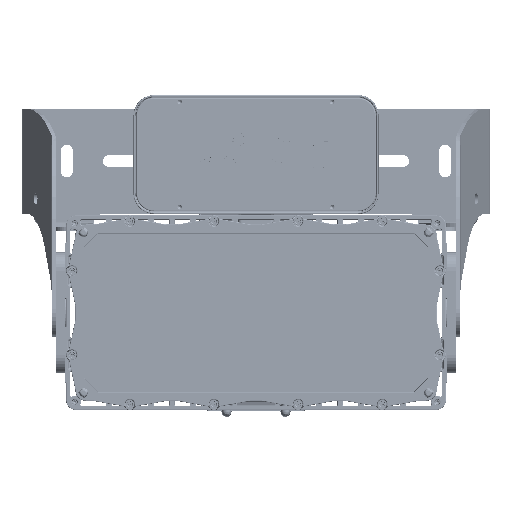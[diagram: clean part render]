
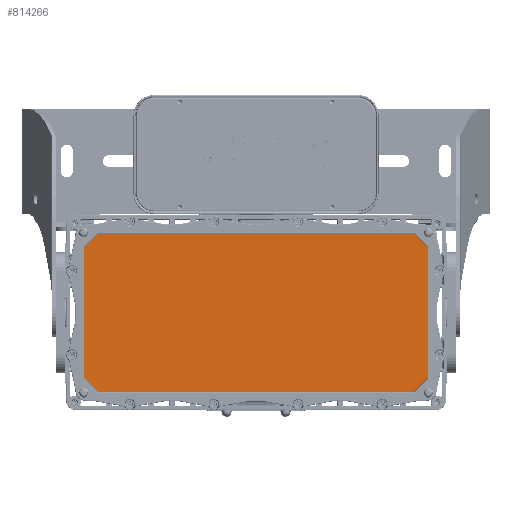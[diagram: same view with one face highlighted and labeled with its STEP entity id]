
A CAD part, front view. The second image highlights one B-rep face of the part: STEP entity #814266.
In plain terms, the highlighted planar face has unit normal (0, -1, 0) as drawn and (0, 1, 0) by its records, which use the part's own axes.
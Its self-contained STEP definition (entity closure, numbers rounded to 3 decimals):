
#813973=CARTESIAN_POINT('',(-7.554,0.232,-3.845));
#813974=DIRECTION('',(0.,1.,0.));
#813975=DIRECTION('',(0.,0.,-1.));
#813976=AXIS2_PLACEMENT_3D('',#813973,#813974,#813975);
#813978=DIRECTION('',(-1.,0.,0.));
#813979=VECTOR('',#813978,15.107);
#813980=CARTESIAN_POINT('',(7.554,0.232,-3.945));
#813981=LINE('',#813980,#813979);
#813982=CARTESIAN_POINT('',(7.554,0.232,-3.845));
#813983=DIRECTION('',(0.,1.,0.));
#813984=DIRECTION('',(0.707,0.,-0.707));
#813985=AXIS2_PLACEMENT_3D('',#813982,#813983,#813984);
#813987=DIRECTION('',(-0.707,0.,-0.707));
#813988=VECTOR('',#813987,0.964);
#813989=CARTESIAN_POINT('',(8.306,0.232,-3.234));
#813990=LINE('',#813989,#813988);
#813991=CARTESIAN_POINT('',(8.235,0.232,-3.164));
#813992=DIRECTION('',(0.,1.,0.));
#813993=DIRECTION('',(1.,0.,0.));
#813994=AXIS2_PLACEMENT_3D('',#813991,#813992,#813993);
#813996=DIRECTION('',(0.,0.,-1.));
#813997=VECTOR('',#813996,6.327);
#813998=CARTESIAN_POINT('',(8.335,0.232,3.164));
#813999=LINE('',#813998,#813997);
#814000=CARTESIAN_POINT('',(8.235,0.232,3.164));
#814001=DIRECTION('',(0.,1.,0.));
#814002=DIRECTION('',(0.707,0.,0.707));
#814003=AXIS2_PLACEMENT_3D('',#814000,#814001,#814002);
#814005=DIRECTION('',(0.707,0.,-0.707));
#814006=VECTOR('',#814005,0.964);
#814007=CARTESIAN_POINT('',(7.624,0.232,3.916));
#814008=LINE('',#814007,#814006);
#814009=CARTESIAN_POINT('',(7.554,0.232,3.845));
#814010=DIRECTION('',(0.,1.,0.));
#814011=DIRECTION('',(0.,0.,1.));
#814012=AXIS2_PLACEMENT_3D('',#814009,#814010,#814011);
#814014=DIRECTION('',(1.,0.,0.));
#814015=VECTOR('',#814014,15.107);
#814016=CARTESIAN_POINT('',(-7.554,0.232,3.945));
#814017=LINE('',#814016,#814015);
#814018=CARTESIAN_POINT('',(-7.554,0.232,3.845));
#814019=DIRECTION('',(0.,1.,0.));
#814020=DIRECTION('',(-0.707,0.,0.707));
#814021=AXIS2_PLACEMENT_3D('',#814018,#814019,#814020);
#814023=DIRECTION('',(0.707,0.,0.707));
#814024=VECTOR('',#814023,0.964);
#814025=CARTESIAN_POINT('',(-8.306,0.232,3.234));
#814026=LINE('',#814025,#814024);
#814027=CARTESIAN_POINT('',(-8.235,0.232,3.164));
#814028=DIRECTION('',(0.,1.,0.));
#814029=DIRECTION('',(-1.,0.,0.));
#814030=AXIS2_PLACEMENT_3D('',#814027,#814028,#814029);
#814032=DIRECTION('',(0.,0.,1.));
#814033=VECTOR('',#814032,6.327);
#814034=CARTESIAN_POINT('',(-8.335,0.232,-3.164));
#814035=LINE('',#814034,#814033);
#814036=CARTESIAN_POINT('',(-8.235,0.232,-3.164));
#814037=DIRECTION('',(0.,1.,0.));
#814038=DIRECTION('',(-0.707,0.,-0.707));
#814039=AXIS2_PLACEMENT_3D('',#814036,#814037,#814038);
#814041=DIRECTION('',(-0.707,0.,0.707));
#814042=VECTOR('',#814041,0.964);
#814043=CARTESIAN_POINT('',(-7.624,0.232,-3.916));
#814044=LINE('',#814043,#814042);
#814109=CARTESIAN_POINT('',(-7.554,0.232,-3.945));
#814110=CARTESIAN_POINT('',(-7.624,0.232,-3.916));
#814111=VERTEX_POINT('',#814109);
#814112=VERTEX_POINT('',#814110);
#814121=CARTESIAN_POINT('',(-8.306,0.232,-3.234));
#814122=VERTEX_POINT('',#814121);
#814123=CARTESIAN_POINT('',(-8.335,0.232,-3.164));
#814124=VERTEX_POINT('',#814123);
#814125=CARTESIAN_POINT('',(-8.335,0.232,3.164));
#814126=CARTESIAN_POINT('',(-8.306,0.232,3.234));
#814127=VERTEX_POINT('',#814125);
#814128=VERTEX_POINT('',#814126);
#814137=CARTESIAN_POINT('',(-7.624,0.232,3.916));
#814138=VERTEX_POINT('',#814137);
#814139=CARTESIAN_POINT('',(-7.554,0.232,3.945));
#814140=VERTEX_POINT('',#814139);
#814141=CARTESIAN_POINT('',(7.554,0.232,3.945));
#814142=CARTESIAN_POINT('',(7.624,0.232,3.916));
#814143=VERTEX_POINT('',#814141);
#814144=VERTEX_POINT('',#814142);
#814153=CARTESIAN_POINT('',(8.306,0.232,3.234));
#814154=VERTEX_POINT('',#814153);
#814155=CARTESIAN_POINT('',(8.335,0.232,3.164));
#814156=VERTEX_POINT('',#814155);
#814157=CARTESIAN_POINT('',(8.335,0.232,-3.164));
#814158=CARTESIAN_POINT('',(8.306,0.232,-3.234));
#814159=VERTEX_POINT('',#814157);
#814160=VERTEX_POINT('',#814158);
#814169=CARTESIAN_POINT('',(7.624,0.232,-3.916));
#814170=VERTEX_POINT('',#814169);
#814171=CARTESIAN_POINT('',(7.554,0.232,-3.945));
#814172=VERTEX_POINT('',#814171);
#814228=CARTESIAN_POINT('',(0.,0.232,0.));
#814229=DIRECTION('',(0.,1.,0.));
#814230=DIRECTION('',(1.,0.,0.));
#814231=AXIS2_PLACEMENT_3D('',#814228,#814229,#814230);
#814232=PLANE('',#814231);
#814233=ORIENTED_EDGE('',*,*,#814218,.F.);
#814235=ORIENTED_EDGE('',*,*,#814234,.F.);
#814237=ORIENTED_EDGE('',*,*,#814236,.F.);
#814239=ORIENTED_EDGE('',*,*,#814238,.F.);
#814241=ORIENTED_EDGE('',*,*,#814240,.F.);
#814243=ORIENTED_EDGE('',*,*,#814242,.F.);
#814245=ORIENTED_EDGE('',*,*,#814244,.F.);
#814247=ORIENTED_EDGE('',*,*,#814246,.F.);
#814249=ORIENTED_EDGE('',*,*,#814248,.F.);
#814251=ORIENTED_EDGE('',*,*,#814250,.F.);
#814253=ORIENTED_EDGE('',*,*,#814252,.F.);
#814255=ORIENTED_EDGE('',*,*,#814254,.F.);
#814257=ORIENTED_EDGE('',*,*,#814256,.F.);
#814259=ORIENTED_EDGE('',*,*,#814258,.F.);
#814261=ORIENTED_EDGE('',*,*,#814260,.F.);
#814263=ORIENTED_EDGE('',*,*,#814262,.F.);
#814264=EDGE_LOOP('',(#814233,#814235,#814237,#814239,#814241,#814243,#814245,
#814247,#814249,#814251,#814253,#814255,#814257,#814259,#814261,#814263));
#814265=FACE_OUTER_BOUND('',#814264,.F.);
#814266=ADVANCED_FACE('',(#814265),#814232,.T.);
#813977=CIRCLE('',#813976,0.1);
#813986=CIRCLE('',#813985,0.1);
#813995=CIRCLE('',#813994,0.1);
#814004=CIRCLE('',#814003,0.1);
#814013=CIRCLE('',#814012,0.1);
#814022=CIRCLE('',#814021,0.1);
#814031=CIRCLE('',#814030,0.1);
#814040=CIRCLE('',#814039,0.1);
#814218=EDGE_CURVE('',#814111,#814112,#813977,.T.);
#814234=EDGE_CURVE('',#814172,#814111,#813981,.T.);
#814236=EDGE_CURVE('',#814170,#814172,#813986,.T.);
#814238=EDGE_CURVE('',#814160,#814170,#813990,.T.);
#814240=EDGE_CURVE('',#814159,#814160,#813995,.T.);
#814242=EDGE_CURVE('',#814156,#814159,#813999,.T.);
#814244=EDGE_CURVE('',#814154,#814156,#814004,.T.);
#814246=EDGE_CURVE('',#814144,#814154,#814008,.T.);
#814248=EDGE_CURVE('',#814143,#814144,#814013,.T.);
#814250=EDGE_CURVE('',#814140,#814143,#814017,.T.);
#814252=EDGE_CURVE('',#814138,#814140,#814022,.T.);
#814254=EDGE_CURVE('',#814128,#814138,#814026,.T.);
#814256=EDGE_CURVE('',#814127,#814128,#814031,.T.);
#814258=EDGE_CURVE('',#814124,#814127,#814035,.T.);
#814260=EDGE_CURVE('',#814122,#814124,#814040,.T.);
#814262=EDGE_CURVE('',#814112,#814122,#814044,.T.);
